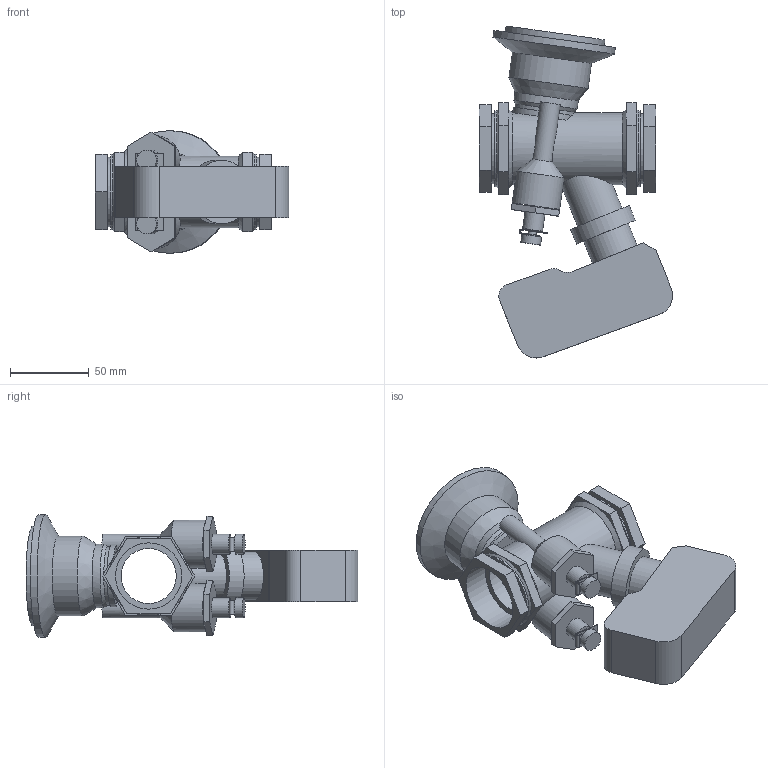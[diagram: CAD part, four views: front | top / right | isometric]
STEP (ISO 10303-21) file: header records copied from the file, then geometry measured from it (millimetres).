
FILE_DESCRIPTION(/* description */ ('VIC BALANCING AND CONTROL VALVE SERIES 7CP (FPT)-TA SLIDER 160','CAx-IF Rec.Pracs.---Representation and Presentation of Product Manufacturing Information (PMI)---4.0---2014-10-13'),/* implementation_level */ '2;1');
FILE_NAME(/* name */ 'C:\Users\Vjadhav\AppData\Roaming\Autodesk\ApplicationPlugins\Victaulic.Temp\A633\Victaulic_IPS_Valve Balancing Pressure Independent_TA Series 7CP (FPT)_Slider 160_1.25 (32).stp',/* time_stamp */ '2021-09-14T20:04:22+06:00',/* author */ ('Vjadhav'),/* organization */ ('Victaulic'),/* preprocessor_version */ 'ST-DEVELOPER v17.2',/* originating_system */ 'Autodesk Inventor 2019',/* authorisation */ '');
FILE_SCHEMA (('AP242_MANAGED_MODEL_BASED_3D_ENGINEERING_MIM_LF { 1 0 10303 442 1 1 4 }'));
Length unit declared in the file: inch
Products named in the file (2): 7CP_Slider 160-01.25; 7CP-01.25
Assembly tree (1 placements, depth 2):
  7CP_Slider 160-01.25
    7CP-01.25
Bounding box: 122.87 x 211.07 x 77.98 mm (x, y, z)
Volume: 412743.6 mm3; surface area: 88660.8 mm2
Topology: 1 solids, 1 shells, 175 faces, 447 edges, 298 vertices
Faces by surface type: plane 118, cylinder 47, cone 10
Full cylindrical faces by diameter (mm): 5.08 x6, 12.7 x8, 30.48 x4, 35.052 x2, 40.232 x1, 40.64 x1, 42.164 x3, 44.45 x2, 45.72 x1, 48.26 x2, 50.8 x1, 63.5 x1, 77.978 x1
Entity records: 5899 total; most frequent: CARTESIAN_POINT 1195, DIRECTION 960, ORIENTED_EDGE 894, EDGE_CURVE 447, AXIS2_PLACEMENT_3D 355, VERTEX_POINT 298, LINE 250, VECTOR 250
